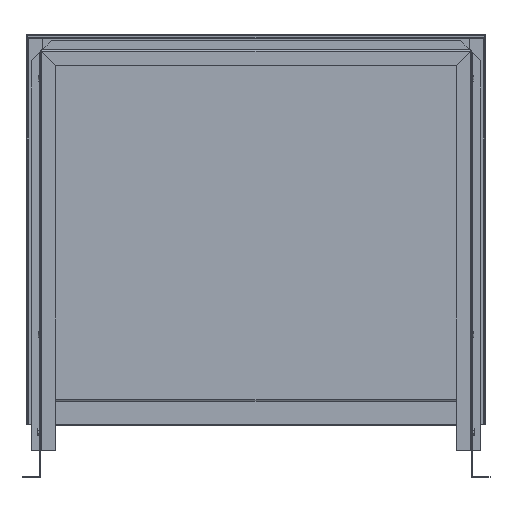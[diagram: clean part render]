
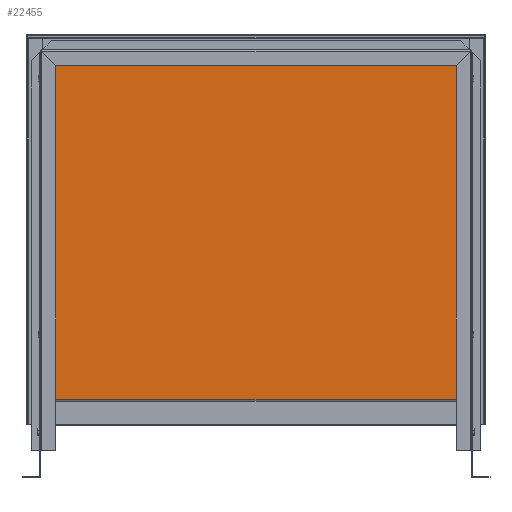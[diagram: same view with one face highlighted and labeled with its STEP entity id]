
A CAD part, front view. The second image highlights one B-rep face of the part: STEP entity #22455.
In plain terms, the highlighted planar face has unit normal (0, -1, 0).
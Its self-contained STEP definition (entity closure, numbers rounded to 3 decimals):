
#16622=CARTESIAN_POINT('',(347.271,0.8,647.2));
#16623=VERTEX_POINT('',#16622);
#16630=CARTESIAN_POINT('',(325.,0.8,624.929));
#16631=VERTEX_POINT('',#16630);
#16632=CARTESIAN_POINT('',(347.271,0.8,647.2));
#16633=DIRECTION('',(-0.707,0.,-0.707));
#16634=VECTOR('',#16633,31.496);
#16635=LINE('',#16632,#16634);
#16636=EDGE_CURVE('',#16623,#16631,#16635,.T.);
#16687=CARTESIAN_POINT('',(325.,0.8,81.8));
#16688=VERTEX_POINT('',#16687);
#16821=CARTESIAN_POINT('',(325.,0.8,81.8));
#16822=DIRECTION('',(-0.,0.,1.));
#16823=VECTOR('',#16822,543.129);
#16824=LINE('',#16821,#16823);
#16825=EDGE_CURVE('',#16688,#16631,#16824,.T.);
#17457=CARTESIAN_POINT('',(324.929,0.8,625.));
#17458=VERTEX_POINT('',#17457);
#17465=CARTESIAN_POINT('',(347.129,0.8,647.2));
#17466=VERTEX_POINT('',#17465);
#17467=CARTESIAN_POINT('',(324.929,0.8,625.));
#17468=DIRECTION('',(0.707,-0.,0.707));
#17469=VECTOR('',#17468,31.396);
#17470=LINE('',#17467,#17469);
#17471=EDGE_CURVE('',#17458,#17466,#17470,.T.);
#18735=CARTESIAN_POINT('',(-347.129,0.8,647.2));
#18736=VERTEX_POINT('',#18735);
#19815=CARTESIAN_POINT('',(-324.929,0.8,625.));
#19816=VERTEX_POINT('',#19815);
#19823=CARTESIAN_POINT('',(324.929,0.8,625.));
#19824=DIRECTION('',(-1.,0.,0.));
#19825=VECTOR('',#19824,649.859);
#19826=LINE('',#19823,#19825);
#19827=EDGE_CURVE('',#17458,#19816,#19826,.T.);
#19858=CARTESIAN_POINT('',(-347.129,0.8,647.2));
#19859=DIRECTION('',(0.707,0.,-0.707));
#19860=VECTOR('',#19859,31.396);
#19861=LINE('',#19858,#19860);
#19862=EDGE_CURVE('',#18736,#19816,#19861,.T.);
#22285=CARTESIAN_POINT('',(-325.,0.8,624.929));
#22286=VERTEX_POINT('',#22285);
#22293=CARTESIAN_POINT('',(-347.271,0.8,647.2));
#22294=VERTEX_POINT('',#22293);
#22295=CARTESIAN_POINT('',(-325.,0.8,624.929));
#22296=DIRECTION('',(-0.707,-0.,0.707));
#22297=VECTOR('',#22296,31.496);
#22298=LINE('',#22295,#22297);
#22299=EDGE_CURVE('',#22286,#22294,#22298,.T.);
#22316=CARTESIAN_POINT('',(-325.,0.8,81.8));
#22317=VERTEX_POINT('',#22316);
#22384=CARTESIAN_POINT('',(-325.,0.8,624.929));
#22385=DIRECTION('',(-0.,0.,-1.));
#22386=VECTOR('',#22385,543.129);
#22387=LINE('',#22384,#22386);
#22388=EDGE_CURVE('',#22286,#22317,#22387,.T.);
#22423=CARTESIAN_POINT('',(0.,0.8,0.));
#22424=DIRECTION('',(0.,1.,0.));
#22425=DIRECTION('',(-1.,0.,0.));
#22426=AXIS2_PLACEMENT_3D('',#22423,#22424,#22425);
#22427=PLANE('',#22426);
#22428=CARTESIAN_POINT('',(325.,0.8,81.8));
#22429=DIRECTION('',(-1.,0.,0.));
#22430=VECTOR('',#22429,650.);
#22431=LINE('',#22428,#22430);
#22432=EDGE_CURVE('',#16688,#22317,#22431,.T.);
#22433=ORIENTED_EDGE('',*,*,#22432,.F.);
#22434=ORIENTED_EDGE('',*,*,#16825,.T.);
#22435=ORIENTED_EDGE('',*,*,#16636,.F.);
#22436=CARTESIAN_POINT('',(347.129,0.8,647.2));
#22437=DIRECTION('',(1.,0.,-0.));
#22438=VECTOR('',#22437,0.141);
#22439=LINE('',#22436,#22438);
#22440=EDGE_CURVE('',#17466,#16623,#22439,.T.);
#22441=ORIENTED_EDGE('',*,*,#22440,.F.);
#22442=ORIENTED_EDGE('',*,*,#17471,.F.);
#22443=ORIENTED_EDGE('',*,*,#19827,.T.);
#22444=ORIENTED_EDGE('',*,*,#19862,.F.);
#22445=CARTESIAN_POINT('',(-347.271,0.8,647.2));
#22446=DIRECTION('',(1.,0.,-0.));
#22447=VECTOR('',#22446,0.141);
#22448=LINE('',#22445,#22447);
#22449=EDGE_CURVE('',#22294,#18736,#22448,.T.);
#22450=ORIENTED_EDGE('',*,*,#22449,.F.);
#22451=ORIENTED_EDGE('',*,*,#22299,.F.);
#22452=ORIENTED_EDGE('',*,*,#22388,.T.);
#22453=EDGE_LOOP('',(#22433,#22434,#22435,#22441,#22442,#22443,#22444,#22450,#22451,#22452));
#22454=FACE_BOUND('',#22453,.T.);
#22455=ADVANCED_FACE('',(#22454),#22427,.F.);
